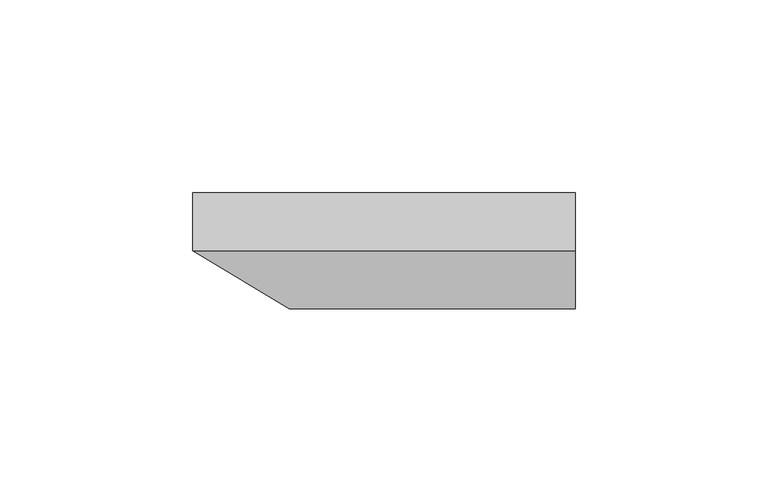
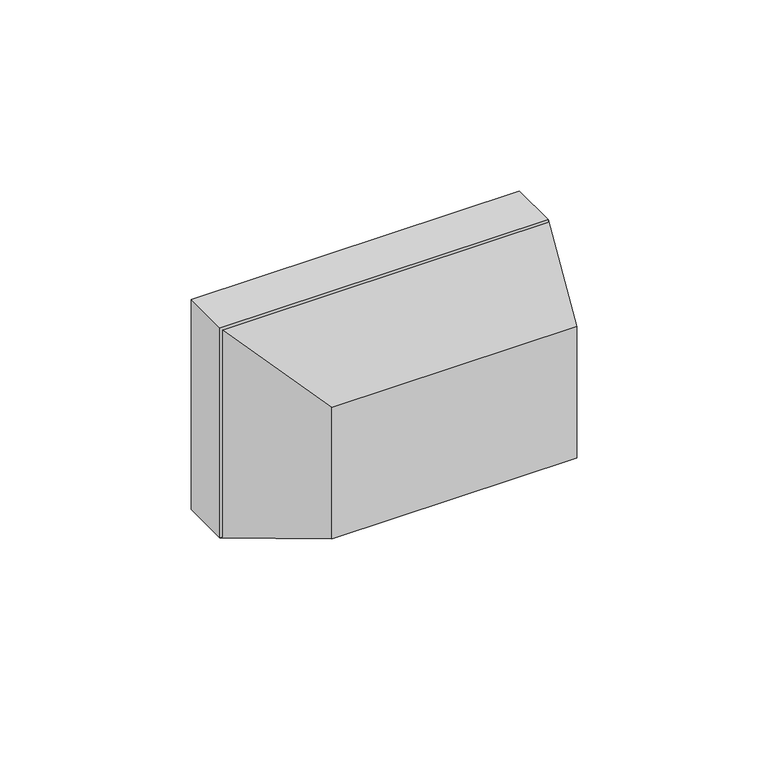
"""IFC4 building model written with IfcOpenShell, lengths in millimetres: duct fitting geometry, КНС_ВводВоВнутреннийБлокКондиционера_DKC : Левый."""

from ifc_helpers import new_model, si_unit, frame, origin, place, context, project, spatial, polyline, outline, extrude, faceted_brep, source, transform, mapped, element, save


def duct_fitting_90979366(model_context):
    return source(origin(), model_context, "Body", "SolidModel", [
        extrude(outline(polyline([(37.0, 15.0), (-62.0, 15.0), (-62.0, 30.0), (37.0, 30.0), (37.0, 15.0)])), frame((0.0, 0.0, -20.0), z_axis=(0.0, 0.0, 1.0), x_axis=(1.0, 0.0, 0.0)), (0.0, 0.0, 1.0), 67.0),
        faceted_brep([(-62.0, 15.0, 47.0), (37.0, 15.0, 47.0), (37.0, 15.0, -20.0), (-62.0, 15.0, -20.0), (-37.0, 0.0, 22.0), (-37.0, 0.0, -20.0), (37.0, 0.0, -20.0), (37.0, 0.0, 22.0)], [[[0, 1, 2, 3]], [[4, 5, 6, 7]], [[5, 4, 0, 3]], [[6, 5, 3, 2]], [[7, 6, 2, 1]], [[4, 7, 1, 0]]]),
    ])


if __name__ == "__main__":
    model = new_model("IFC4")
    model_context = context("Model", 3, world=origin())
    ifc_project = project(units=[si_unit("LENGTHUNIT", "METRE", prefix="MILLI")], contexts=[model_context])
    site = spatial("IfcSite", under=ifc_project)
    building = spatial("IfcBuilding", under=site)
    placement = place(None, origin())
    duct_fitting_shape = duct_fitting_90979366(model_context)
    element("IfcDuctFitting", 1, ObjectType="КНС_ВводВоВнутреннийБлокКондиционера_DKC : Левый", at=placement, inside=building, context=model_context, shape_type="MappedRepresentation", body=[
        mapped(duct_fitting_shape, transform((0.0, 0.0, 0.0), x_axis=(1.0, 0.0, 0.0), y_axis=(0.0, 1.0, 0.0), z_axis=(0.0, 0.0, 1.0))),
    ])
    save(model, "model.ifc")
